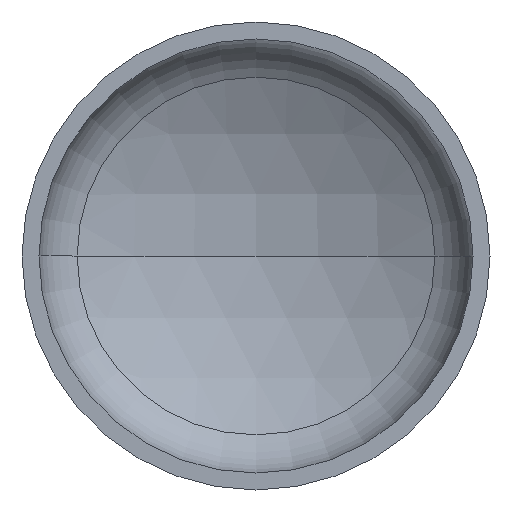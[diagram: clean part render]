
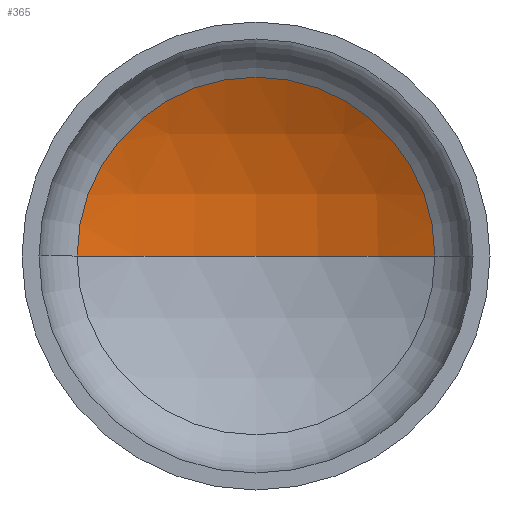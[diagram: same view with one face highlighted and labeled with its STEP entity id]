
A CAD part, front view. The second image highlights one B-rep face of the part: STEP entity #365.
In plain terms, the highlighted spherical face has radius 640 mm.
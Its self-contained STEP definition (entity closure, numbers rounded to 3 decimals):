
#2 = AXIS2_PLACEMENT_3D ( 'NONE', #166, #389, #283 ) ;
#8 = AXIS2_PLACEMENT_3D ( 'NONE', #239, #163, #169 ) ;
#10 = CARTESIAN_POINT ( 'NONE',  ( 0., 199.817, 0. ) ) ;
#17 = EDGE_LOOP ( 'NONE', ( #35, #149, #116 ) ) ;
#25 = VERTEX_POINT ( 'NONE', #261 ) ;
#33 = AXIS2_PLACEMENT_3D ( 'NONE', #10, #316, #170 ) ;
#35 = ORIENTED_EDGE ( 'NONE', *, *, #358, .F. ) ;
#110 = VERTEX_POINT ( 'NONE', #232 ) ;
#116 = ORIENTED_EDGE ( 'NONE', *, *, #141, .T. ) ;
#141 = EDGE_CURVE ( 'NONE', #110, #145, #178, .T. ) ;
#145 = VERTEX_POINT ( 'NONE', #314 ) ;
#149 = ORIENTED_EDGE ( 'NONE', *, *, #357, .T. ) ;
#163 = DIRECTION ( 'NONE',  ( 0., 0., -1. ) ) ;
#166 = CARTESIAN_POINT ( 'NONE',  ( 0., -362.448, 0. ) ) ;
#167 = AXIS2_PLACEMENT_3D ( 'NONE', #312, #313, #337 ) ;
#169 = DIRECTION ( 'NONE',  ( -1., 0., 0. ) ) ;
#170 = DIRECTION ( 'NONE',  ( 1., 0., 0. ) ) ;
#178 = CIRCLE ( 'NONE', #33, 305.709 ) ;
#200 = SPHERICAL_SURFACE ( 'NONE', #167, 640. ) ;
#209 = CIRCLE ( 'NONE', #8, 640. ) ;
#232 = CARTESIAN_POINT ( 'NONE',  ( 305.709, 199.817, 0. ) ) ;
#239 = CARTESIAN_POINT ( 'NONE',  ( 0., -362.448, 0. ) ) ;
#258 = CIRCLE ( 'NONE', #2, 640. ) ;
#261 = CARTESIAN_POINT ( 'NONE',  ( 0., 277.552, 0. ) ) ;
#267 = FACE_OUTER_BOUND ( 'NONE', #17, .T. ) ;
#283 = DIRECTION ( 'NONE',  ( 1., 0., 0. ) ) ;
#312 = CARTESIAN_POINT ( 'NONE',  ( 0., -362.448, 0. ) ) ;
#313 = DIRECTION ( 'NONE',  ( 0., 0., -1. ) ) ;
#314 = CARTESIAN_POINT ( 'NONE',  ( -305.709, 199.817, 0. ) ) ;
#316 = DIRECTION ( 'NONE',  ( 0., -1., 0. ) ) ;
#337 = DIRECTION ( 'NONE',  ( -1., 0., 0. ) ) ;
#357 = EDGE_CURVE ( 'NONE', #25, #110, #209, .T. ) ;
#358 = EDGE_CURVE ( 'NONE', #25, #145, #258, .T. ) ;
#365 = ADVANCED_FACE ( 'NONE', ( #267 ), #200, .F. ) ;
#389 = DIRECTION ( 'NONE',  ( 0., 0., 1. ) ) ;
